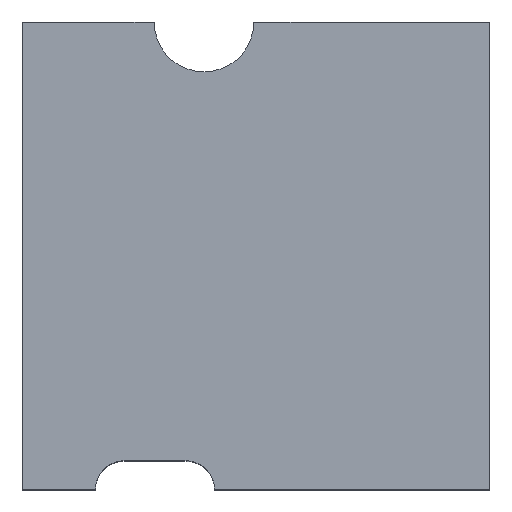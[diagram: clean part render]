
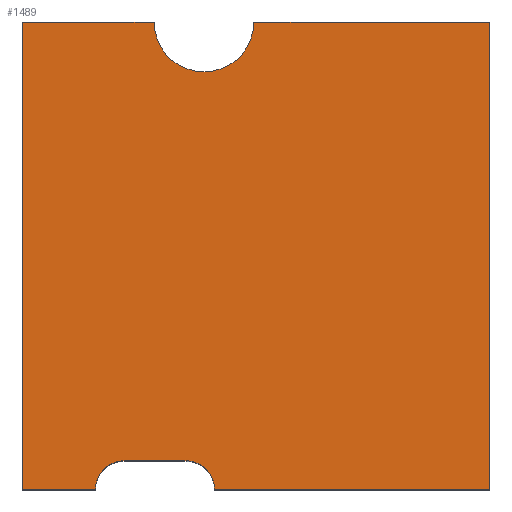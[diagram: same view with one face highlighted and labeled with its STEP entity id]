
A CAD part, top view. The second image highlights one B-rep face of the part: STEP entity #1489.
In plain terms, the highlighted planar face has unit normal (0, 0, 1).
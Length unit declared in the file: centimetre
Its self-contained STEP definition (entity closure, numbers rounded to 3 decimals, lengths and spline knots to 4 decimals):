
#6 = CARTESIAN_POINT ( 'NONE',  ( 388.7322, 1000., 1000. ) ) ;
#32 = VERTEX_POINT ( 'NONE', #803 ) ;
#40 = EDGE_CURVE ( 'NONE', #1571, #32, #743, .T. ) ;
#41 = ORIENTED_EDGE ( 'NONE', *, *, #1083, .T. ) ;
#52 = CARTESIAN_POINT ( 'NONE',  ( 282.0199, 1000., 1000. ) ) ;
#60 = CARTESIAN_POINT ( 'NONE',  ( 156.4126, 0., 1000. ) ) ;
#62 = DIRECTION ( 'NONE',  ( -1., 0., 0. ) ) ;
#112 = LINE ( 'NONE', #642, #513 ) ;
#140 = VERTEX_POINT ( 'NONE', #1338 ) ;
#143 = DIRECTION ( 'NONE',  ( 1., 0., 0. ) ) ;
#171 = CARTESIAN_POINT ( 'NONE',  ( 1000., 1000., 1000. ) ) ;
#244 = EDGE_CURVE ( 'NONE', #660, #473, #587, .T. ) ;
#276 = DIRECTION ( 'NONE',  ( 1., 0., 0. ) ) ;
#309 = VERTEX_POINT ( 'NONE', #60 ) ;
#369 = EDGE_CURVE ( 'NONE', #1080, #140, #539, .T. ) ;
#373 = DIRECTION ( 'NONE',  ( 1., 0., 0. ) ) ;
#380 = CARTESIAN_POINT ( 'NONE',  ( 217.6521, 0., 1000. ) ) ;
#386 = DIRECTION ( 'NONE',  ( 0., 0., 1. ) ) ;
#396 = VECTOR ( 'NONE', #1052, 100. ) ;
#409 = ORIENTED_EDGE ( 'NONE', *, *, #1536, .F. ) ;
#444 = AXIS2_PLACEMENT_3D ( 'NONE', #515, #1400, #1557 ) ;
#448 = CARTESIAN_POINT ( 'NONE',  ( 350.2528, 61.2395, 1000. ) ) ;
#452 = LINE ( 'NONE', #1621, #1167 ) ;
#472 = DIRECTION ( 'NONE',  ( 0., -1., 0. ) ) ;
#473 = VERTEX_POINT ( 'NONE', #448 ) ;
#502 = VECTOR ( 'NONE', #507, 100. ) ;
#503 = ORIENTED_EDGE ( 'NONE', *, *, #778, .T. ) ;
#507 = DIRECTION ( 'NONE',  ( -1., 0., 0. ) ) ;
#513 = VECTOR ( 'NONE', #1163, 100. ) ;
#515 = CARTESIAN_POINT ( 'NONE',  ( 0., 0., 1000. ) ) ;
#537 = VECTOR ( 'NONE', #472, 100. ) ;
#539 = LINE ( 'NONE', #171, #1135 ) ;
#550 = DIRECTION ( 'NONE',  ( 1., 0., 0. ) ) ;
#564 = CARTESIAN_POINT ( 'NONE',  ( 0., 0., 1000. ) ) ;
#587 = CIRCLE ( 'NONE', #1669, 61.2395 ) ;
#622 = LINE ( 'NONE', #1630, #537 ) ;
#634 = ORIENTED_EDGE ( 'NONE', *, *, #1528, .F. ) ;
#641 = CARTESIAN_POINT ( 'NONE',  ( 350.2528, 61.2395, 1000. ) ) ;
#642 = CARTESIAN_POINT ( 'NONE',  ( 0., 1000., 1000. ) ) ;
#653 = LINE ( 'NONE', #564, #396 ) ;
#660 = VERTEX_POINT ( 'NONE', #1636 ) ;
#681 = ORIENTED_EDGE ( 'NONE', *, *, #369, .T. ) ;
#735 = VERTEX_POINT ( 'NONE', #738 ) ;
#738 = CARTESIAN_POINT ( 'NONE',  ( 0., 0., 1000. ) ) ;
#739 = ORIENTED_EDGE ( 'NONE', *, *, #40, .F. ) ;
#743 = CIRCLE ( 'NONE', #1337, 106.7123 ) ;
#744 = ORIENTED_EDGE ( 'NONE', *, *, #1254, .T. ) ;
#749 = FACE_OUTER_BOUND ( 'NONE', #917, .T. ) ;
#774 = DIRECTION ( 'NONE',  ( 0., 0., 1. ) ) ;
#778 = EDGE_CURVE ( 'NONE', #1568, #735, #622, .T. ) ;
#803 = CARTESIAN_POINT ( 'NONE',  ( 495.4445, 1000., 1000. ) ) ;
#835 = EDGE_CURVE ( 'NONE', #140, #32, #452, .T. ) ;
#914 = CARTESIAN_POINT ( 'NONE',  ( 0., 0., 1000. ) ) ;
#917 = EDGE_LOOP ( 'NONE', ( #634, #409, #1027, #744, #681, #1149, #739, #41, #503, #1449 ) ) ;
#1027 = ORIENTED_EDGE ( 'NONE', *, *, #244, .F. ) ;
#1052 = DIRECTION ( 'NONE',  ( 1., 0., 0. ) ) ;
#1072 = VECTOR ( 'NONE', #550, 100. ) ;
#1080 = VERTEX_POINT ( 'NONE', #1139 ) ;
#1083 = EDGE_CURVE ( 'NONE', #1571, #1568, #112, .T. ) ;
#1098 = CIRCLE ( 'NONE', #1606, 61.2395 ) ;
#1135 = VECTOR ( 'NONE', #1603, 100. ) ;
#1139 = CARTESIAN_POINT ( 'NONE',  ( 1000., 0., 1000. ) ) ;
#1142 = EDGE_CURVE ( 'NONE', #735, #309, #1559, .T. ) ;
#1149 = ORIENTED_EDGE ( 'NONE', *, *, #835, .T. ) ;
#1163 = DIRECTION ( 'NONE',  ( -1., 0., 0. ) ) ;
#1167 = VECTOR ( 'NONE', #62, 100. ) ;
#1247 = VERTEX_POINT ( 'NONE', #1297 ) ;
#1254 = EDGE_CURVE ( 'NONE', #660, #1080, #653, .T. ) ;
#1297 = CARTESIAN_POINT ( 'NONE',  ( 217.6521, 61.2395, 1000. ) ) ;
#1298 = CARTESIAN_POINT ( 'NONE',  ( 350.2528, 0., 1000. ) ) ;
#1337 = AXIS2_PLACEMENT_3D ( 'NONE', #6, #1666, #276 ) ;
#1338 = CARTESIAN_POINT ( 'NONE',  ( 1000., 1000., 1000. ) ) ;
#1400 = DIRECTION ( 'NONE',  ( 0., 0., 1. ) ) ;
#1449 = ORIENTED_EDGE ( 'NONE', *, *, #1142, .T. ) ;
#1489 = ADVANCED_FACE ( 'NONE', ( #749 ), #1534, .T. ) ;
#1524 = LINE ( 'NONE', #641, #502 ) ;
#1528 = EDGE_CURVE ( 'NONE', #1247, #309, #1098, .T. ) ;
#1534 = PLANE ( 'NONE',  #444 ) ;
#1536 = EDGE_CURVE ( 'NONE', #473, #1247, #1524, .T. ) ;
#1557 = DIRECTION ( 'NONE',  ( 1., 0., 0. ) ) ;
#1559 = LINE ( 'NONE', #914, #1072 ) ;
#1566 = CARTESIAN_POINT ( 'NONE',  ( 0., 1000., 1000. ) ) ;
#1568 = VERTEX_POINT ( 'NONE', #1566 ) ;
#1571 = VERTEX_POINT ( 'NONE', #52 ) ;
#1603 = DIRECTION ( 'NONE',  ( 0., 1., 0. ) ) ;
#1606 = AXIS2_PLACEMENT_3D ( 'NONE', #380, #774, #373 ) ;
#1621 = CARTESIAN_POINT ( 'NONE',  ( 0., 1000., 1000. ) ) ;
#1630 = CARTESIAN_POINT ( 'NONE',  ( 0., 1000., 1000. ) ) ;
#1636 = CARTESIAN_POINT ( 'NONE',  ( 411.4924, 0., 1000. ) ) ;
#1666 = DIRECTION ( 'NONE',  ( 0., 0., 1. ) ) ;
#1669 = AXIS2_PLACEMENT_3D ( 'NONE', #1298, #386, #143 ) ;
